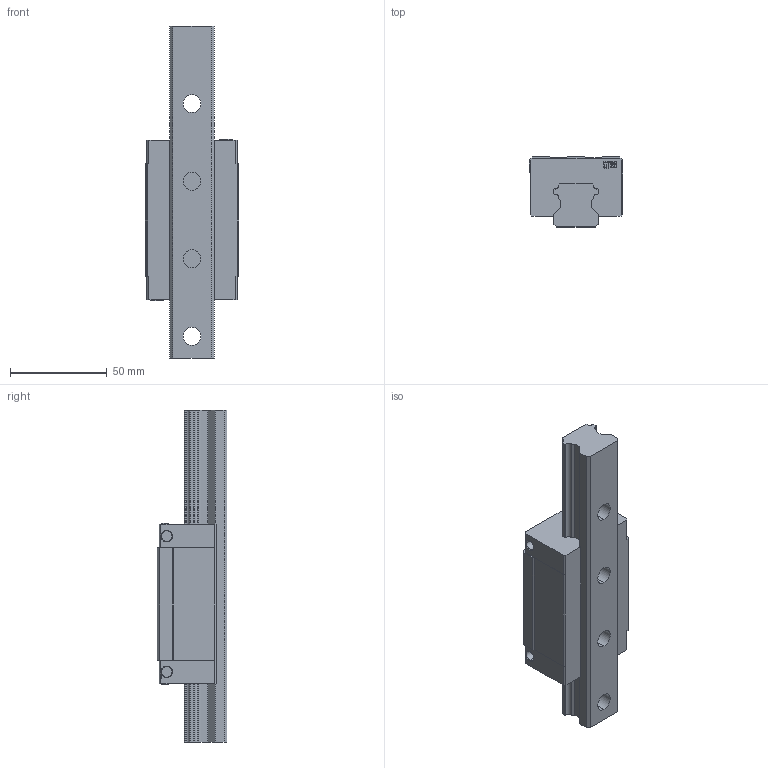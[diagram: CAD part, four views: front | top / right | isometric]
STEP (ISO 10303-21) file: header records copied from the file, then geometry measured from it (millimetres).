
FILE_DESCRIPTION (( 'STEP AP214' ), '1' );
FILE_NAME ('7.1073 Lineaarikelkka HTL25CA.STEP', '2026-03-12T13:53:03', ( '' ), ( '' ), 'SwSTEP 2.0', 'SolidWorks 2025', '' );
FILE_SCHEMA (( 'AUTOMOTIVE_DESIGN' ));
Length unit declared in the file: millimetre
Products named in the file (4): 7.1073 Lineaarikelkka HTL25CA; HG-25-RAIL_6; ASM_HT25_ASM_42_ASM; HG-25-BLOCK_9
Assembly tree (3 placements, depth 3):
  7.1073 Lineaarikelkka HTL25CA
    ASM_HT25_ASM_42_ASM
      HG-25-RAIL_6
      HG-25-BLOCK_9
Bounding box: 48 x 36 x 171.14 mm (x, y, z)
Volume: 158314.3 mm3; surface area: 37582.6 mm2
Topology: 2 solids, 3 shells, 890 faces, 2529 edges, 1682 vertices
Faces by surface type: plane 735, bspline 111, cylinder 36, cone 8
Entity records: 42788 total; most frequent: CARTESIAN_POINT 10478, ORIENTED_EDGE 5026, DIRECTION 3945, EDGE_CURVE 2513, VECTOR 2207, LINE 2207, VERTEX_POINT 1674, EDGE_LOOP 943
